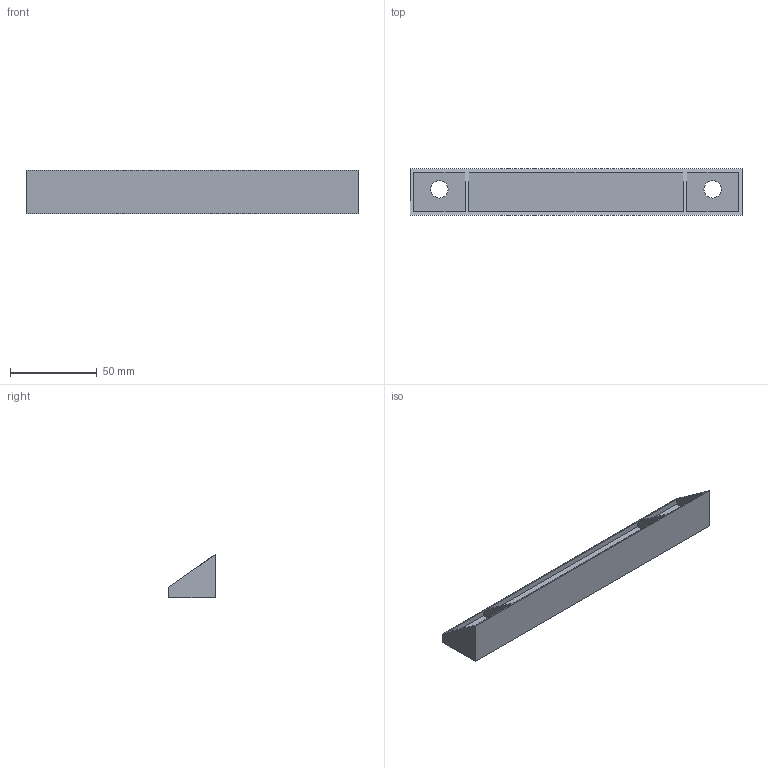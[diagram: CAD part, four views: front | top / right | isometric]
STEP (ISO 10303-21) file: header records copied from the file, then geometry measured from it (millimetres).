
FILE_DESCRIPTION(/* description */ (''),/* implementation_level */ '2;1');
FILE_NAME(/* name */ 'D:\3d\leaf_lower_leg.stp',/* time_stamp */ '2019-11-10T16:37:28-08:00',/* author */ ('RUARK'),/* organization */ (''),/* preprocessor_version */ 'ST-DEVELOPER v18',/* originating_system */ 'Autodesk Inventor 2020',/* authorisation */ '');
FILE_SCHEMA (('AUTOMOTIVE_DESIGN { 1 0 10303 214 3 1 1 }'));
Length unit declared in the file: millimetre
Products named in the file (1): leaf_lower_leg
Bounding box: 191.85 x 27 x 25 mm (x, y, z)
Volume: 31017.6 mm3; surface area: 23082.5 mm2
Topology: 1 solids, 1 shells, 24 faces, 94 edges, 108 vertices
Faces by surface type: plane 22, cylinder 2
Full cylindrical faces by diameter (mm): 10 x2
Entity records: 869 total; most frequent: CARTESIAN_POINT 192, DIRECTION 115, ORIENTED_EDGE 114, EDGE_CURVE 57, LINE 53, VECTOR 53, VERTEX_POINT 38, POLYLINE 35
